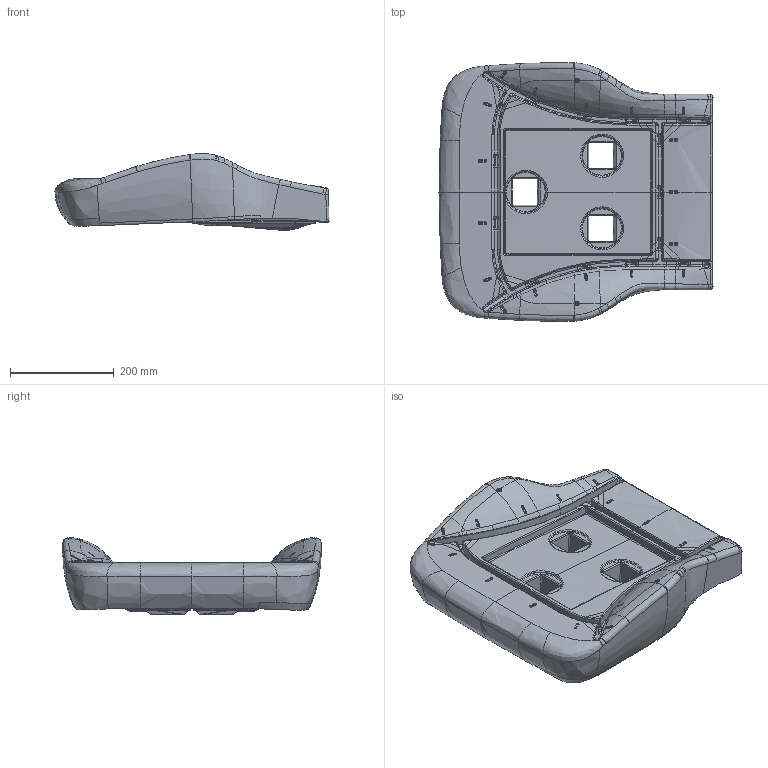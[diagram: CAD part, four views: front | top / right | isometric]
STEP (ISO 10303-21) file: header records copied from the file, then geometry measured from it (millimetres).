
FILE_DESCRIPTION(('CATIA V5 STEP Exchange'),'2;1');
FILE_NAME('F:\26.二汽\T712\04-2D\SHT0012521\SHT0012521.stp','2021-01-20T00:54:38+00:00',('none'),('none'),'CATIA Version 5 Release 20 GA (IN-10)','CATIA V5 STEP AP214','none');
FILE_SCHEMA(('AUTOMOTIVE_DESIGN { 1 0 10303 214 1 1 1 1 }'));
Products named in the file (6): SHT0012521; SHT0011070; SHT0011071; SHT0011603; SHT0011604; SHT0010563
Assembly tree (5 placements, depth 2):
  SHT0012521
    SHT0011070
    SHT0011071
    SHT0011603
    SHT0011604
    SHT0010563
Bounding box: 527.52 x 497.68 x 147.75 mm (x, y, z)
Volume: 15644841.2 mm3; surface area: 799272.2 mm2
Topology: 5 solids, 5 shells, 3700 faces, 9843 edges, 5897 vertices
Faces by surface type: plane 1516, bspline 1264, cylinder 501, sphere 284, torus 115, cone 8, revolution 8, extrusion 4
Entity records: 289485 total; most frequent: CARTESIAN_POINT 217645, ORIENTED_EDGE 19106, EDGE_CURVE 9553, DIRECTION 7632, B_SPLINE_CURVE_WITH_KNOTS 6534, VERTEX_POINT 5897, EDGE_LOOP 3740, ADVANCED_FACE 3700
